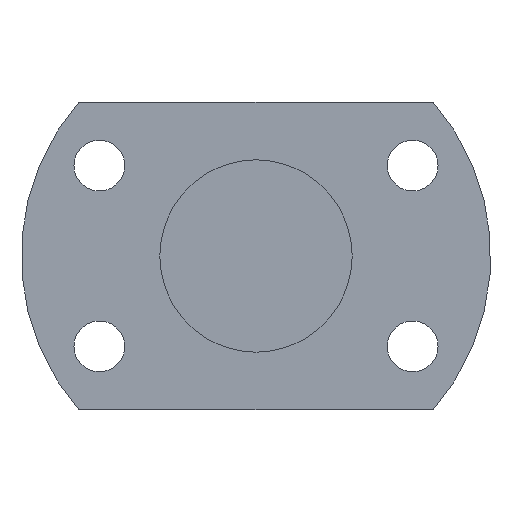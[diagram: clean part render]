
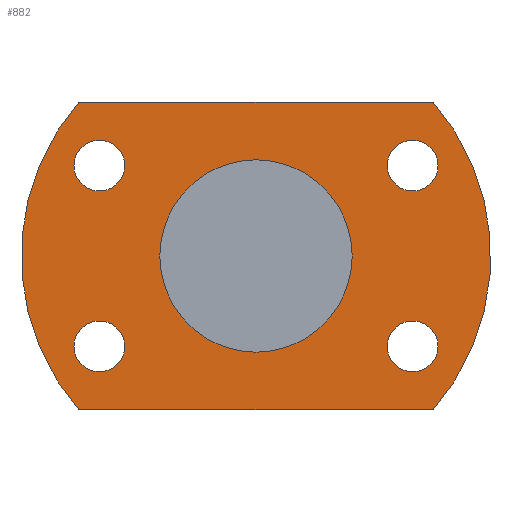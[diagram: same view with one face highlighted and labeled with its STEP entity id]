
A CAD part, left-side view. The second image highlights one B-rep face of the part: STEP entity #882.
In plain terms, the highlighted planar face has unit normal (-1, 0, 0).
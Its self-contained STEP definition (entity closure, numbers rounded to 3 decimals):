
#230=CARTESIAN_POINT('',(125.0,20.352,-8.45));
#231=VERTEX_POINT('',#230);
#232=CARTESIAN_POINT('',(125.0,20.352,-11.75));
#233=DIRECTION('',(1.0,0.0,0.0));
#234=DIRECTION('',(0.0,0.0,1.0));
#235=AXIS2_PLACEMENT_3D('',#232,#233,#234);
#236=CIRCLE('',#235,3.3);
#237=EDGE_CURVE('',#231,#231,#236,.T.);
#279=CARTESIAN_POINT('',(125.0,-20.352,15.05));
#280=VERTEX_POINT('',#279);
#281=CARTESIAN_POINT('',(125.0,-20.352,11.75));
#282=DIRECTION('',(1.0,0.0,0.0));
#283=DIRECTION('',(0.0,0.0,1.0));
#284=AXIS2_PLACEMENT_3D('',#281,#282,#283);
#285=CIRCLE('',#284,3.3);
#286=EDGE_CURVE('',#280,#280,#285,.T.);
#328=CARTESIAN_POINT('',(125.0,-20.352,-8.45));
#329=VERTEX_POINT('',#328);
#330=CARTESIAN_POINT('',(125.0,-20.352,-11.75));
#331=DIRECTION('',(1.0,0.0,0.0));
#332=DIRECTION('',(0.0,0.0,1.0));
#333=AXIS2_PLACEMENT_3D('',#330,#331,#332);
#334=CIRCLE('',#333,3.3);
#335=EDGE_CURVE('',#329,#329,#334,.T.);
#377=CARTESIAN_POINT('',(125.0,20.352,15.05));
#378=VERTEX_POINT('',#377);
#379=CARTESIAN_POINT('',(125.0,20.352,11.75));
#380=DIRECTION('',(1.0,0.0,0.0));
#381=DIRECTION('',(0.0,0.0,1.0));
#382=AXIS2_PLACEMENT_3D('',#379,#380,#381);
#383=CIRCLE('',#382,3.3);
#384=EDGE_CURVE('',#378,#378,#383,.T.);
#688=CARTESIAN_POINT('',(125.0,-23.027,-20.0));
#689=VERTEX_POINT('',#688);
#696=CARTESIAN_POINT('',(125.0,23.027,-20.0));
#697=VERTEX_POINT('',#696);
#698=CARTESIAN_POINT('',(125.0,23.027,-20.0));
#699=DIRECTION('',(0.0,-1.0,0.0));
#700=VECTOR('',#699,46.054);
#701=LINE('',#698,#700);
#702=EDGE_CURVE('',#697,#689,#701,.T.);
#719=CARTESIAN_POINT('',(125.0,-23.027,20.0));
#720=VERTEX_POINT('',#719);
#727=CARTESIAN_POINT('',(125.0,0.0,0.));
#728=DIRECTION('',(-1.0,0.0,0.0));
#729=DIRECTION('',(0.0,0.0,1.0));
#730=AXIS2_PLACEMENT_3D('',#727,#728,#729);
#731=CIRCLE('',#730,30.5);
#732=EDGE_CURVE('',#689,#720,#731,.T.);
#744=CARTESIAN_POINT('',(125.0,23.027,20.0));
#745=VERTEX_POINT('',#744);
#752=CARTESIAN_POINT('',(125.0,-23.027,20.0));
#753=DIRECTION('',(0.0,1.0,0.0));
#754=VECTOR('',#753,46.054);
#755=LINE('',#752,#754);
#756=EDGE_CURVE('',#720,#745,#755,.T.);
#769=CARTESIAN_POINT('',(125.0,0.0,0.));
#770=DIRECTION('',(-1.0,0.0,0.0));
#771=DIRECTION('',(0.0,0.0,1.0));
#772=AXIS2_PLACEMENT_3D('',#769,#770,#771);
#773=CIRCLE('',#772,30.5);
#774=EDGE_CURVE('',#745,#697,#773,.T.);
#848=CARTESIAN_POINT('',(125.0,0.0,15.25));
#849=DIRECTION('',(-1.0,0.0,0.0));
#850=DIRECTION('',(0.0,0.0,1.0));
#851=AXIS2_PLACEMENT_3D('',#848,#849,#850);
#852=PLANE('',#851);
#853=ORIENTED_EDGE('',*,*,#774,.T.);
#854=ORIENTED_EDGE('',*,*,#702,.T.);
#855=ORIENTED_EDGE('',*,*,#732,.T.);
#856=ORIENTED_EDGE('',*,*,#756,.T.);
#857=EDGE_LOOP('',(#853,#854,#855,#856));
#858=FACE_OUTER_BOUND('',#857,.T.);
#859=ORIENTED_EDGE('',*,*,#237,.T.);
#860=EDGE_LOOP('',(#859));
#861=FACE_BOUND('',#860,.T.);
#862=ORIENTED_EDGE('',*,*,#286,.T.);
#863=EDGE_LOOP('',(#862));
#864=FACE_BOUND('',#863,.T.);
#865=ORIENTED_EDGE('',*,*,#335,.T.);
#866=EDGE_LOOP('',(#865));
#867=FACE_BOUND('',#866,.T.);
#868=ORIENTED_EDGE('',*,*,#384,.T.);
#869=EDGE_LOOP('',(#868));
#870=FACE_BOUND('',#869,.T.);
#871=CARTESIAN_POINT('',(125.0,0.0,12.5));
#872=VERTEX_POINT('',#871);
#873=CARTESIAN_POINT('',(125.0,0.0,0.));
#874=DIRECTION('',(-1.0,0.0,0.0));
#875=DIRECTION('',(0.0,0.0,1.0));
#876=AXIS2_PLACEMENT_3D('',#873,#874,#875);
#877=CIRCLE('',#876,12.5);
#878=EDGE_CURVE('',#872,#872,#877,.T.);
#879=ORIENTED_EDGE('',*,*,#878,.F.);
#880=EDGE_LOOP('',(#879));
#881=FACE_BOUND('',#880,.T.);
#882=ADVANCED_FACE('',(#858,#861,#864,#867,#870,#881),#852,.T.);
